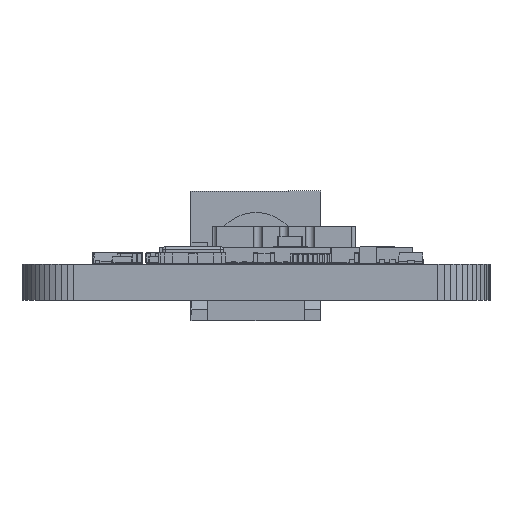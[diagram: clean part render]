
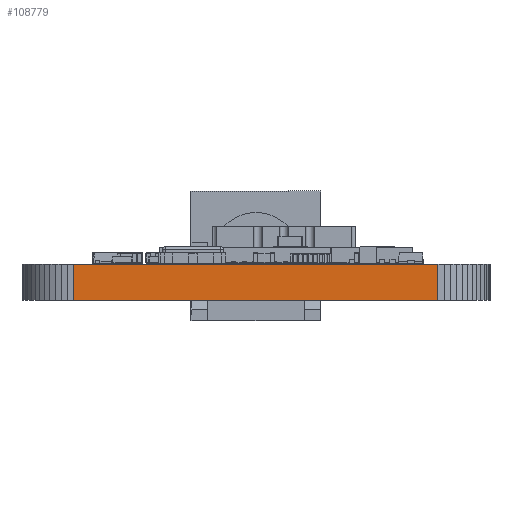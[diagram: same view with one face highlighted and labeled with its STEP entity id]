
A CAD part, left-side view. The second image highlights one B-rep face of the part: STEP entity #108779.
In plain terms, the highlighted planar face has unit normal (-1, 0, 0).
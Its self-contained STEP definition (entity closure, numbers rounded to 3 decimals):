
#102700 = PLANE('',#102701);
#102701 = AXIS2_PLACEMENT_3D('',#102702,#102703,#102704);
#102702 = CARTESIAN_POINT('',(0.,0.,
    1.77));
#102703 = DIRECTION('',(-0.,-0.,-1.));
#102704 = DIRECTION('',(-1.,0.,0.));
#102754 = PLANE('',#102755);
#102755 = AXIS2_PLACEMENT_3D('',#102756,#102757,#102758);
#102756 = CARTESIAN_POINT('',(0.,0.,0.
    ));
#102757 = DIRECTION('',(-0.,-0.,-1.));
#102758 = DIRECTION('',(-1.,0.,0.));
#103955 = VERTEX_POINT('',#103956);
#103956 = CARTESIAN_POINT('',(-25.4,-8.89,0.));
#103970 = PLANE('',#103971);
#103971 = AXIS2_PLACEMENT_3D('',#103972,#103973,#103974);
#103972 = CARTESIAN_POINT('',(-25.381,-9.196,0.));
#103973 = DIRECTION('',(-0.998,-0.06,0.));
#103974 = DIRECTION('',(-0.06,0.998,0.));
#103982 = EDGE_CURVE('',#103955,#103983,#103985,.T.);
#103983 = VERTEX_POINT('',#103984);
#103984 = CARTESIAN_POINT('',(-25.4,8.89,0.));
#103985 = SURFACE_CURVE('',#103986,(#103990,#103997),.PCURVE_S1.);
#103986 = LINE('',#103987,#103988);
#103987 = CARTESIAN_POINT('',(-25.4,-8.89,0.));
#103988 = VECTOR('',#103989,1.);
#103989 = DIRECTION('',(0.,1.,0.));
#103990 = PCURVE('',#102754,#103991);
#103991 = DEFINITIONAL_REPRESENTATION('',(#103992),#103996);
#103992 = LINE('',#103993,#103994);
#103993 = CARTESIAN_POINT('',(25.4,-8.89));
#103994 = VECTOR('',#103995,1.);
#103995 = DIRECTION('',(0.,1.));
#103996 = ( GEOMETRIC_REPRESENTATION_CONTEXT(2) 
PARAMETRIC_REPRESENTATION_CONTEXT() REPRESENTATION_CONTEXT('2D SPACE',''
  ) );
#103997 = PCURVE('',#103998,#104003);
#103998 = PLANE('',#103999);
#103999 = AXIS2_PLACEMENT_3D('',#104000,#104001,#104002);
#104000 = CARTESIAN_POINT('',(-25.4,-8.89,0.));
#104001 = DIRECTION('',(-1.,0.,0.));
#104002 = DIRECTION('',(0.,1.,0.));
#104003 = DEFINITIONAL_REPRESENTATION('',(#104004),#104008);
#104004 = LINE('',#104005,#104006);
#104005 = CARTESIAN_POINT('',(0.,0.));
#104006 = VECTOR('',#104007,1.);
#104007 = DIRECTION('',(1.,0.));
#104008 = ( GEOMETRIC_REPRESENTATION_CONTEXT(2) 
PARAMETRIC_REPRESENTATION_CONTEXT() REPRESENTATION_CONTEXT('2D SPACE',''
  ) );
#104026 = PLANE('',#104027);
#104027 = AXIS2_PLACEMENT_3D('',#104028,#104029,#104030);
#104028 = CARTESIAN_POINT('',(-25.4,8.89,0.));
#104029 = DIRECTION('',(-0.998,0.06,0.));
#104030 = DIRECTION('',(0.06,0.998,0.));
#106548 = VERTEX_POINT('',#106549);
#106549 = CARTESIAN_POINT('',(-25.4,-8.89,1.77));
#106570 = EDGE_CURVE('',#106548,#106571,#106573,.T.);
#106571 = VERTEX_POINT('',#106572);
#106572 = CARTESIAN_POINT('',(-25.4,8.89,1.77));
#106573 = SURFACE_CURVE('',#106574,(#106578,#106585),.PCURVE_S1.);
#106574 = LINE('',#106575,#106576);
#106575 = CARTESIAN_POINT('',(-25.4,-8.89,1.77));
#106576 = VECTOR('',#106577,1.);
#106577 = DIRECTION('',(0.,1.,0.));
#106578 = PCURVE('',#102700,#106579);
#106579 = DEFINITIONAL_REPRESENTATION('',(#106580),#106584);
#106580 = LINE('',#106581,#106582);
#106581 = CARTESIAN_POINT('',(25.4,-8.89));
#106582 = VECTOR('',#106583,1.);
#106583 = DIRECTION('',(0.,1.));
#106584 = ( GEOMETRIC_REPRESENTATION_CONTEXT(2) 
PARAMETRIC_REPRESENTATION_CONTEXT() REPRESENTATION_CONTEXT('2D SPACE',''
  ) );
#106585 = PCURVE('',#103998,#106586);
#106586 = DEFINITIONAL_REPRESENTATION('',(#106587),#106591);
#106587 = LINE('',#106588,#106589);
#106588 = CARTESIAN_POINT('',(0.,-1.77));
#106589 = VECTOR('',#106590,1.);
#106590 = DIRECTION('',(1.,0.));
#106591 = ( GEOMETRIC_REPRESENTATION_CONTEXT(2) 
PARAMETRIC_REPRESENTATION_CONTEXT() REPRESENTATION_CONTEXT('2D SPACE',''
  ) );
#108729 = EDGE_CURVE('',#103983,#106571,#108730,.T.);
#108730 = SURFACE_CURVE('',#108731,(#108735,#108742),.PCURVE_S1.);
#108731 = LINE('',#108732,#108733);
#108732 = CARTESIAN_POINT('',(-25.4,8.89,0.));
#108733 = VECTOR('',#108734,1.);
#108734 = DIRECTION('',(0.,0.,1.));
#108735 = PCURVE('',#104026,#108736);
#108736 = DEFINITIONAL_REPRESENTATION('',(#108737),#108741);
#108737 = LINE('',#108738,#108739);
#108738 = CARTESIAN_POINT('',(0.,0.));
#108739 = VECTOR('',#108740,1.);
#108740 = DIRECTION('',(0.,-1.));
#108741 = ( GEOMETRIC_REPRESENTATION_CONTEXT(2) 
PARAMETRIC_REPRESENTATION_CONTEXT() REPRESENTATION_CONTEXT('2D SPACE',''
  ) );
#108742 = PCURVE('',#103998,#108743);
#108743 = DEFINITIONAL_REPRESENTATION('',(#108744),#108748);
#108744 = LINE('',#108745,#108746);
#108745 = CARTESIAN_POINT('',(17.78,0.));
#108746 = VECTOR('',#108747,1.);
#108747 = DIRECTION('',(0.,-1.));
#108748 = ( GEOMETRIC_REPRESENTATION_CONTEXT(2) 
PARAMETRIC_REPRESENTATION_CONTEXT() REPRESENTATION_CONTEXT('2D SPACE',''
  ) );
#108779 = ADVANCED_FACE('',(#108780),#103998,.T.);
#108780 = FACE_BOUND('',#108781,.T.);
#108781 = EDGE_LOOP('',(#108782,#108803,#108804,#108805));
#108782 = ORIENTED_EDGE('',*,*,#108783,.T.);
#108783 = EDGE_CURVE('',#103955,#106548,#108784,.T.);
#108784 = SURFACE_CURVE('',#108785,(#108789,#108796),.PCURVE_S1.);
#108785 = LINE('',#108786,#108787);
#108786 = CARTESIAN_POINT('',(-25.4,-8.89,0.));
#108787 = VECTOR('',#108788,1.);
#108788 = DIRECTION('',(0.,0.,1.));
#108789 = PCURVE('',#103998,#108790);
#108790 = DEFINITIONAL_REPRESENTATION('',(#108791),#108795);
#108791 = LINE('',#108792,#108793);
#108792 = CARTESIAN_POINT('',(0.,0.));
#108793 = VECTOR('',#108794,1.);
#108794 = DIRECTION('',(0.,-1.));
#108795 = ( GEOMETRIC_REPRESENTATION_CONTEXT(2) 
PARAMETRIC_REPRESENTATION_CONTEXT() REPRESENTATION_CONTEXT('2D SPACE',''
  ) );
#108796 = PCURVE('',#103970,#108797);
#108797 = DEFINITIONAL_REPRESENTATION('',(#108798),#108802);
#108798 = LINE('',#108799,#108800);
#108799 = CARTESIAN_POINT('',(0.307,0.));
#108800 = VECTOR('',#108801,1.);
#108801 = DIRECTION('',(0.,-1.));
#108802 = ( GEOMETRIC_REPRESENTATION_CONTEXT(2) 
PARAMETRIC_REPRESENTATION_CONTEXT() REPRESENTATION_CONTEXT('2D SPACE',''
  ) );
#108803 = ORIENTED_EDGE('',*,*,#106570,.T.);
#108804 = ORIENTED_EDGE('',*,*,#108729,.F.);
#108805 = ORIENTED_EDGE('',*,*,#103982,.F.);
